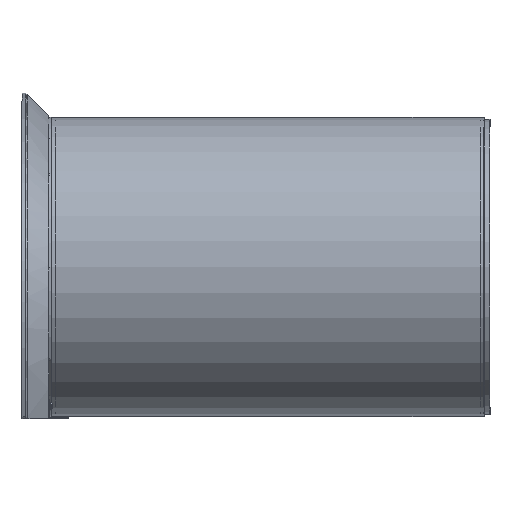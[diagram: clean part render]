
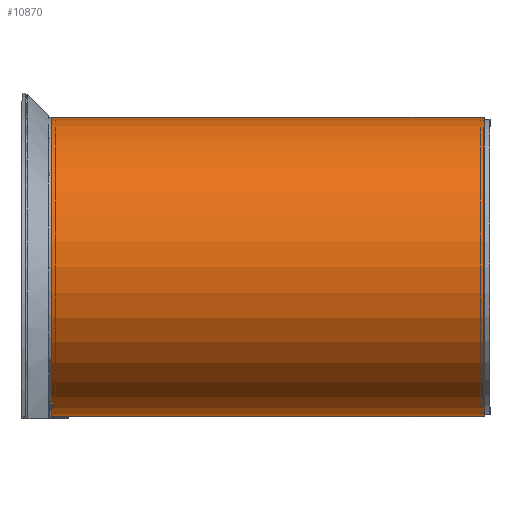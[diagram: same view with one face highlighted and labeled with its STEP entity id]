
A CAD part, left-side view. The second image highlights one B-rep face of the part: STEP entity #10870.
In plain terms, the highlighted cylindrical face has radius 230 mm (diameter 460 mm), a partial arc.
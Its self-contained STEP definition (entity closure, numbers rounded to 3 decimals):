
#95 = EDGE_CURVE ( 'NONE', #9228, #235, #7996, .T. ) ;
#120 = LINE ( 'NONE', #4653, #3861 ) ;
#235 = VERTEX_POINT ( 'NONE', #9664 ) ;
#432 = CARTESIAN_POINT ( 'NONE',  ( 2., 665., 0. ) ) ;
#611 = FACE_OUTER_BOUND ( 'NONE', #11047, .T. ) ;
#760 = CARTESIAN_POINT ( 'NONE',  ( 2., 665., 230. ) ) ;
#775 = DIRECTION ( 'NONE',  ( 0., -1., 0. ) ) ;
#977 = DIRECTION ( 'NONE',  ( 0., -1., 0. ) ) ;
#1486 = DIRECTION ( 'NONE',  ( 0., 1., 0. ) ) ;
#1718 = CARTESIAN_POINT ( 'NONE',  ( 2., 0., -230. ) ) ;
#1781 = CARTESIAN_POINT ( 'NONE',  ( 2., 0., 230. ) ) ;
#1925 = EDGE_CURVE ( 'NONE', #235, #4297, #120, .T. ) ;
#3079 = CIRCLE ( 'NONE', #10560, 230. ) ;
#3202 = DIRECTION ( 'NONE',  ( 0., 1., 0. ) ) ;
#3458 = VECTOR ( 'NONE', #775, 1000. ) ;
#3861 = VECTOR ( 'NONE', #977, 1000. ) ;
#4297 = VERTEX_POINT ( 'NONE', #1718 ) ;
#4653 = CARTESIAN_POINT ( 'NONE',  ( 2., 665., -230. ) ) ;
#4976 = CYLINDRICAL_SURFACE ( 'NONE', #5310, 230. ) ;
#5212 = LINE ( 'NONE', #8776, #3458 ) ;
#5310 = AXIS2_PLACEMENT_3D ( 'NONE', #432, #11128, #8551 ) ;
#5432 = ORIENTED_EDGE ( 'NONE', *, *, #11029, .T. ) ;
#6049 = ORIENTED_EDGE ( 'NONE', *, *, #95, .F. ) ;
#6857 = CARTESIAN_POINT ( 'NONE',  ( 2., 665., 0. ) ) ;
#7477 = DIRECTION ( 'NONE',  ( 0., 0., 1. ) ) ;
#7758 = ORIENTED_EDGE ( 'NONE', *, *, #1925, .F. ) ;
#7996 = CIRCLE ( 'NONE', #9858, 230. ) ;
#8479 = CARTESIAN_POINT ( 'NONE',  ( 2., 0., 0. ) ) ;
#8551 = DIRECTION ( 'NONE',  ( 0., 0., -1. ) ) ;
#8776 = CARTESIAN_POINT ( 'NONE',  ( 2., 665., 230. ) ) ;
#9228 = VERTEX_POINT ( 'NONE', #760 ) ;
#9664 = CARTESIAN_POINT ( 'NONE',  ( 2., 665., -230. ) ) ;
#9858 = AXIS2_PLACEMENT_3D ( 'NONE', #6857, #1486, #7477 ) ;
#9918 = VERTEX_POINT ( 'NONE', #1781 ) ;
#10229 = DIRECTION ( 'NONE',  ( 0., 0., 1. ) ) ;
#10560 = AXIS2_PLACEMENT_3D ( 'NONE', #8479, #3202, #10229 ) ;
#10870 = ADVANCED_FACE ( 'NONE', ( #611 ), #4976, .T. ) ;
#11029 = EDGE_CURVE ( 'NONE', #9228, #9918, #5212, .T. ) ;
#11047 = EDGE_LOOP ( 'NONE', ( #11425, #7758, #6049, #5432 ) ) ;
#11128 = DIRECTION ( 'NONE',  ( 0., -1., 0. ) ) ;
#11363 = EDGE_CURVE ( 'NONE', #9918, #4297, #3079, .T. ) ;
#11425 = ORIENTED_EDGE ( 'NONE', *, *, #11363, .T. ) ;
